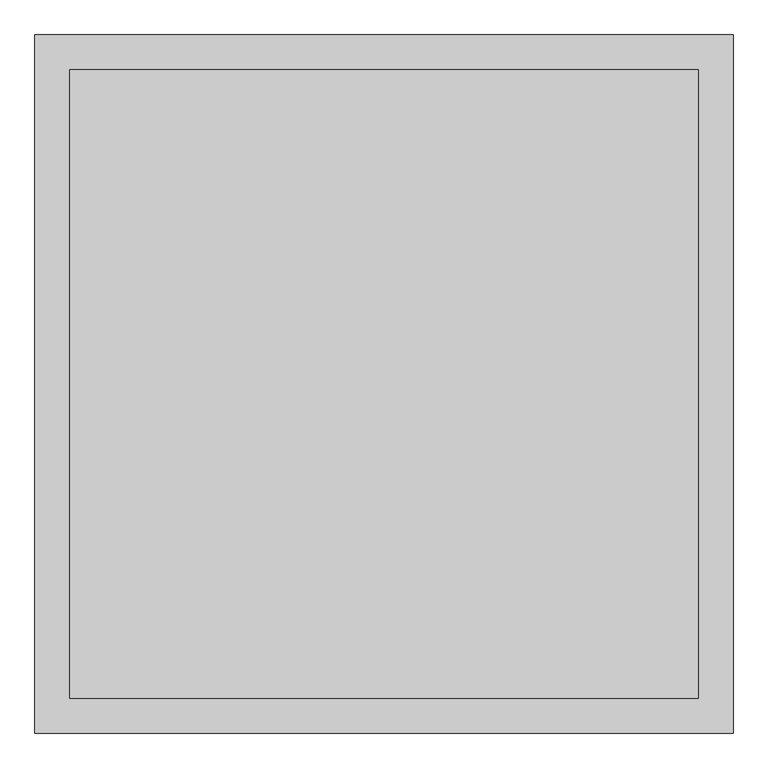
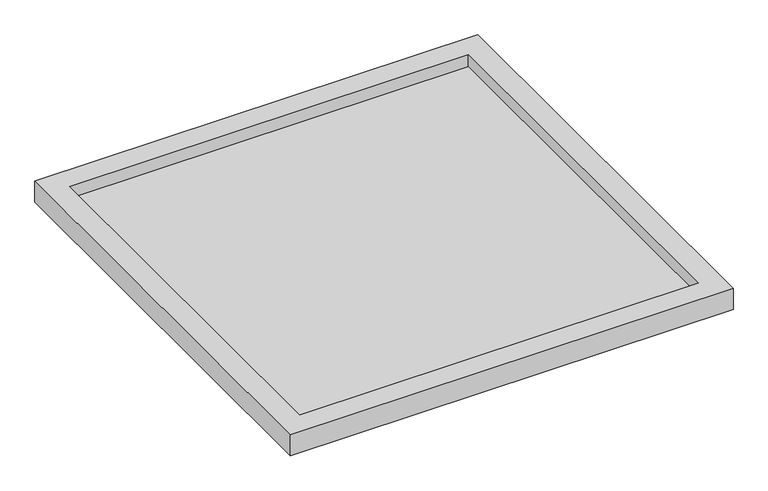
"""IFC4 building model written with IfcOpenShell, lengths in millimetres: proxy geometry, PLATO DE DUCHA : Plato de Ducha 100x100 cm."""

import ifcopenshell
import ifcopenshell.guid

model = None  # the IFC model being written
_history = None  # IfcOwnerHistory: only IFC2X3 demands one
_inside = {}  # id of a spatial element -> (the spatial element, [elements in it])
_under = {}  # id of a project, library or spatial element -> (it, [spatial elements below it])
_declared = {}  # id of a project -> (the project, [libraries it declares])
_typed = {}  # id of a type object -> (the type object, [elements of that type])
_made_of = {}  # id of a material, layer set ... -> (it, [elements and type objects made of it])


def new_model(schema):
    """Start an empty IFC model of exactly this schema.

    Asked for "IFC4X3", IfcOpenShell would pick the latest addendum, in which some entities
    have other attributes; the version numbers below select the first issue.
    IFC2X3 requires an IfcOwnerHistory on every rooted entity: one is made here for all.
    """
    global model, _history
    if schema == "IFC4X3":
        model = ifcopenshell.file(schema_version=(4, 3, 0, 0))
    else:
        model = ifcopenshell.file(schema=schema)
    _inside.clear()
    _under.clear()
    _declared.clear()
    _typed.clear()
    _made_of.clear()
    _history = None
    if model.schema == "IFC2X3":
        org = make("IfcOrganization", Name="unknown")
        user = make(
            "IfcPersonAndOrganization",
            ThePerson=make("IfcPerson", FamilyName="unknown"),
            TheOrganization=org,
        )
        app = make(
            "IfcApplication",
            ApplicationDeveloper=org,
            Version="unknown",
            ApplicationFullName="unknown",
            ApplicationIdentifier="unknown",
        )
        _history = make(
            "IfcOwnerHistory",
            OwningUser=user,
            OwningApplication=app,
            ChangeAction="ADDED",
            CreationDate=0,
        )
    return model


def make(cls, **values):
    """One entity of the class cls with the attributes given. An attribute that is None is left unset."""
    return model.create_entity(
        cls, **{name: value for name, value in values.items() if value is not None}
    )


def rooted(cls, **values):
    """An entity with a GlobalId (a new one), such as an element, a storey or a relation."""
    return make(cls, GlobalId=ifcopenshell.guid.new(), OwnerHistory=_history, **values)


def si_unit(unit_type, name, prefix=None):
    """IfcSIUnit, for example si_unit("LENGTHUNIT", "METRE", prefix="MILLI")."""
    return make("IfcSIUnit", UnitType=unit_type, Prefix=prefix, Name=name)


def assignment(units):
    """IfcUnitAssignment: the units of a project."""
    return None if units is None else make("IfcUnitAssignment", Units=units)


def point(xyz):
    """IfcCartesianPoint."""
    return None if xyz is None else make("IfcCartesianPoint", Coordinates=xyz)


def direction(xyz):
    """IfcDirection."""
    return None if xyz is None else make("IfcDirection", DirectionRatios=xyz)


def frame(location, z_axis=None, x_axis=None):
    """IfcAxis2Placement3D, a coordinate frame: its origin and axes. An axis left out is left unset."""
    return make(
        "IfcAxis2Placement3D",
        Location=point(location),
        Axis=direction(z_axis),
        RefDirection=direction(x_axis),
    )


def origin():
    """The frame at (0, 0, 0) with its axes left unset."""
    return frame((0.0, 0.0, 0.0))


def place(relative_to, where):
    """IfcLocalPlacement: puts the frame where relative to a parent placement (None: the world)."""
    return make(
        "IfcLocalPlacement", PlacementRelTo=relative_to, RelativePlacement=where
    )


def context(
    kind, dimensions, precision=None, world=None, true_north=None, identifier=None
):
    """IfcGeometricRepresentationContext, for example the 3D "Model" context."""
    return make(
        "IfcGeometricRepresentationContext",
        ContextIdentifier=identifier,
        ContextType=kind,
        CoordinateSpaceDimension=dimensions,
        Precision=precision,
        WorldCoordinateSystem=world,
        TrueNorth=true_north,
    )


def project(units=None, contexts=None):
    """IfcProject with its units and contexts."""
    return rooted(
        "IfcProject",
        Name="project",
        RepresentationContexts=contexts,
        UnitsInContext=assignment(units),
    )


def spatial(cls, under=None, at=None, **own):
    """A site, building, storey or space (cls), placed at a placement, below another one or the project."""
    s = rooted(cls, ObjectPlacement=at, **own)
    if under is not None:
        _under.setdefault(under.id(), (under, []))[1].append(s)
    return s


def polyline(points):
    """IfcPolyline through the points."""
    return make("IfcPolyline", Points=[point(p) for p in points])


def outline(outer, holes=None, kind="AREA"):
    """IfcArbitraryClosedProfileDef: a profile drawn as a closed curve; with holes, ...WithVoids."""
    if holes is None:
        return make("IfcArbitraryClosedProfileDef", ProfileType=kind, OuterCurve=outer)
    return make(
        "IfcArbitraryProfileDefWithVoids",
        ProfileType=kind,
        OuterCurve=outer,
        InnerCurves=holes,
    )


def extrude(swept, where, along, depth):
    """IfcExtrudedAreaSolid: the profile swept, set in the frame where, extruded along a direction by depth."""
    return make(
        "IfcExtrudedAreaSolid",
        SweptArea=swept,
        Position=where,
        ExtrudedDirection=direction(along),
        Depth=depth,
    )


def faces_of(points, faces, orient=None, outer=None):
    """IfcFace entities. A face is a list of loops; a loop is a list of indices into points, from 0.

    orient and outer hold one flag for each loop. By default every Orientation is true, the
    first loop of a face is its IfcFaceOuterBound and the others are IfcFaceBound.
    """
    made = []
    for i, loops in enumerate(faces):
        bounds = []
        for j, loop in enumerate(loops):
            is_outer = j == 0 if outer is None else outer[i][j]
            bounds.append(
                make(
                    "IfcFaceOuterBound" if is_outer else "IfcFaceBound",
                    Bound=make("IfcPolyLoop", Polygon=[points[k] for k in loop]),
                    Orientation=True if orient is None else orient[i][j],
                )
            )
        made.append(make("IfcFace", Bounds=bounds))
    return made


def faceted_brep(points, faces, orient=None, outer=None, voids=None):
    """IfcFacetedBrep: a solid bounded by flat faces; with voids (closed shells), ...WithVoids."""
    shared = [point(p) for p in points]
    hull = make("IfcClosedShell", CfsFaces=faces_of(shared, faces, orient, outer))
    if voids is None:
        return make("IfcFacetedBrep", Outer=hull)
    return make(
        "IfcFacetedBrepWithVoids",
        Outer=hull,
        Voids=[
            make(cls, CfsFaces=faces_of(shared, fs, o, b)) for cls, fs, o, b in voids
        ],
    )


def shape(context_of_items, identifier, shape_type, items):
    """IfcShapeRepresentation: the items that make up one representation, for example the "Body"."""
    return make(
        "IfcShapeRepresentation",
        ContextOfItems=context_of_items,
        RepresentationIdentifier=identifier,
        RepresentationType=shape_type,
        Items=items,
    )


def source(mapping_origin, context_of_items, identifier, shape_type, items):
    """IfcRepresentationMap: a shape defined once, which mapped items show again and again."""
    return make(
        "IfcRepresentationMap",
        MappingOrigin=mapping_origin,
        MappedRepresentation=shape(context_of_items, identifier, shape_type, items),
    )


def transform(
    local_origin,
    x_axis=None,
    y_axis=None,
    z_axis=None,
    scale=None,
    scale2=None,
    scale3=None,
    uniform=True,
):
    """IfcCartesianTransformationOperator3D, or its non-uniform kind. x_axis, y_axis, z_axis: its Axis1, 2, 3."""
    if uniform:
        return make(
            "IfcCartesianTransformationOperator3D",
            Axis1=direction(x_axis),
            Axis2=direction(y_axis),
            LocalOrigin=point(local_origin),
            Scale=scale,
            Axis3=direction(z_axis),
        )
    return make(
        "IfcCartesianTransformationOperator3DnonUniform",
        Axis1=direction(x_axis),
        Axis2=direction(y_axis),
        LocalOrigin=point(local_origin),
        Scale=scale,
        Axis3=direction(z_axis),
        Scale2=scale2,
        Scale3=scale3,
    )


def mapped(mapping_source, mapping_target):
    """IfcMappedItem: shows the shape of a source again, moved by a transform."""
    return make(
        "IfcMappedItem", MappingSource=mapping_source, MappingTarget=mapping_target
    )


def made_of(thing, what):
    """Note that an element or type object is made of a material, layer set ...; save() writes the relation."""
    if what is not None:
        _made_of.setdefault(what.id(), (what, []))[1].append(thing)
    return thing


def element(
    cls,
    number,
    at=None,
    inside=None,
    cuts=None,
    type_object=None,
    material=None,
    context=None,
    identifier="Body",
    shape_type=None,
    held_by="IfcProductDefinitionShape",
    body=None,
    shapes=None,
    **own,
):
    """One element of the class cls, such as IfcWall. Its Tag is "e" and its number.

    at: its placement. inside: the storey or other place that contains it. cuts: it is an
    opening in that element (IfcRelVoidsElement). A single representation is given by context,
    identifier, shape_type and body (its items); several are given by shapes. held_by: the class
    of the entity that holds the representations. save() writes the other relations.
    """
    e = rooted(cls, Tag="e%d" % number, ObjectPlacement=at, **own)
    if body is not None:
        shapes = [shape(context, identifier, shape_type, body)]
    if shapes is not None:
        e.Representation = make(held_by, Representations=shapes)
    if inside is not None:
        _inside.setdefault(inside.id(), (inside, []))[1].append(e)
    if cuts is not None:
        rooted(
            "IfcRelVoidsElement", RelatingBuildingElement=cuts, RelatedOpeningElement=e
        )
    if type_object is not None:
        _typed.setdefault(type_object.id(), (type_object, []))[1].append(e)
    return made_of(e, material)


def aggregate(whole, parts):
    """IfcRelAggregates: a whole, such as a stair, and the parts it consists of."""
    return rooted("IfcRelAggregates", RelatingObject=whole, RelatedObjects=parts)


def save(model, path):
    """Write the relations noted so far, then the file.

    IfcRelAggregates (storeys below a building ...), IfcRelContainedInSpatialStructure (elements
    in a storey), IfcRelDefinesByType, IfcRelAssociatesMaterial and IfcRelDeclares: one each for
    every whole, place, type object, material and project.
    """
    for whole, parts in _under.values():
        aggregate(whole, parts)
    for where, things in _inside.values():
        rooted(
            "IfcRelContainedInSpatialStructure",
            RelatedElements=things,
            RelatingStructure=where,
        )
    for kind, things in _typed.values():
        rooted("IfcRelDefinesByType", RelatedObjects=things, RelatingType=kind)
    for what, things in _made_of.values():
        rooted("IfcRelAssociatesMaterial", RelatedObjects=things, RelatingMaterial=what)
    for by, libraries in _declared.values():
        rooted("IfcRelDeclares", RelatingContext=by, RelatedDefinitions=libraries)
    model.write(path)


def generic_models_8e2ee31f(model_context):
    return source(origin(), model_context, "Body", "SolidModel", [
        extrude(outline(polyline([(-450.0, 450.0), (450.0, 450.0), (450.0, -450.0), (-450.0, -450.0), (-450.0, 450.0)])), frame((0.0, 0.0, 20.0), z_axis=(0.0, 0.0, 1.0), x_axis=(1.0, 0.0, 0.0)), (0.0, 0.0, 1.0), 1.9779388),
        faceted_brep([(500.0, 500.0, 0.0), (500.0, 500.0, 50.0), (500.0, -500.0, 50.0), (500.0, -500.0, 0.0), (497.5, 497.5, 47.5), (497.5, 497.5, 0.0), (497.5, -497.5, 0.0), (497.5, -497.5, 47.5), (452.5, 452.5, 20.0), (452.5, 452.5, 47.5), (452.5, -452.5, 47.5), (452.5, -452.5, 20.0), (450.0, 450.0, 50.0), (450.0, 450.0, 20.0), (450.0, -450.0, 20.0), (450.0, -450.0, 50.0), (-500.0, -500.0, 50.0), (-500.0, -500.0, 0.0), (-497.5, -497.5, 0.0), (-497.5, -497.5, 47.5), (-452.5, -452.5, 47.5), (-452.5, -452.5, 20.0), (-450.0, -450.0, 20.0), (-450.0, -450.0, 50.0), (-500.0, 500.0, 50.0), (-500.0, 500.0, 0.0), (-497.5, 497.5, 0.0), (-497.5, 497.5, 47.5), (-452.5, 452.5, 47.5), (-452.5, 452.5, 20.0), (-450.0, 450.0, 20.0), (-450.0, 450.0, 50.0)], [[[0, 1, 2, 3]], [[4, 5, 6, 7]], [[8, 9, 10, 11]], [[12, 13, 14, 15]], [[3, 2, 16, 17]], [[7, 6, 18, 19]], [[11, 10, 20, 21]], [[15, 14, 22, 23]], [[17, 16, 24, 25]], [[19, 18, 26, 27]], [[21, 20, 28, 29]], [[23, 22, 30, 31]], [[25, 24, 1, 0]], [[3, 17, 25, 0], [5, 26, 18, 6]], [[27, 26, 5, 4]], [[7, 19, 27, 4], [9, 28, 20, 10]], [[29, 28, 9, 8]], [[11, 21, 29, 8], [13, 30, 22, 14]], [[31, 30, 13, 12]], [[1, 24, 16, 2], [15, 23, 31, 12]]]),
    ])


if __name__ == "__main__":
    model = new_model("IFC4")
    model_context = context("Model", 3, world=origin())
    ifc_project = project(units=[si_unit("LENGTHUNIT", "METRE", prefix="MILLI")], contexts=[model_context])
    site = spatial("IfcSite", under=ifc_project)
    building = spatial("IfcBuilding", under=site)
    placement = place(None, origin())
    generic_models_shape = generic_models_8e2ee31f(model_context)
    element("IfcBuildingElementProxy", 1, Name="PLATO DE DUCHA : Plato de Ducha 100x100 cm", ObjectType="PLATO DE DUCHA : Plato de Ducha 100x100 cm", at=placement, inside=building, context=model_context, shape_type="MappedRepresentation", body=[
        mapped(generic_models_shape, transform((0.0, 0.0, 0.0), x_axis=(1.0, 0.0, 0.0), y_axis=(0.0, 1.0, 0.0), z_axis=(0.0, 0.0, 1.0))),
    ])
    save(model, "model.ifc")
